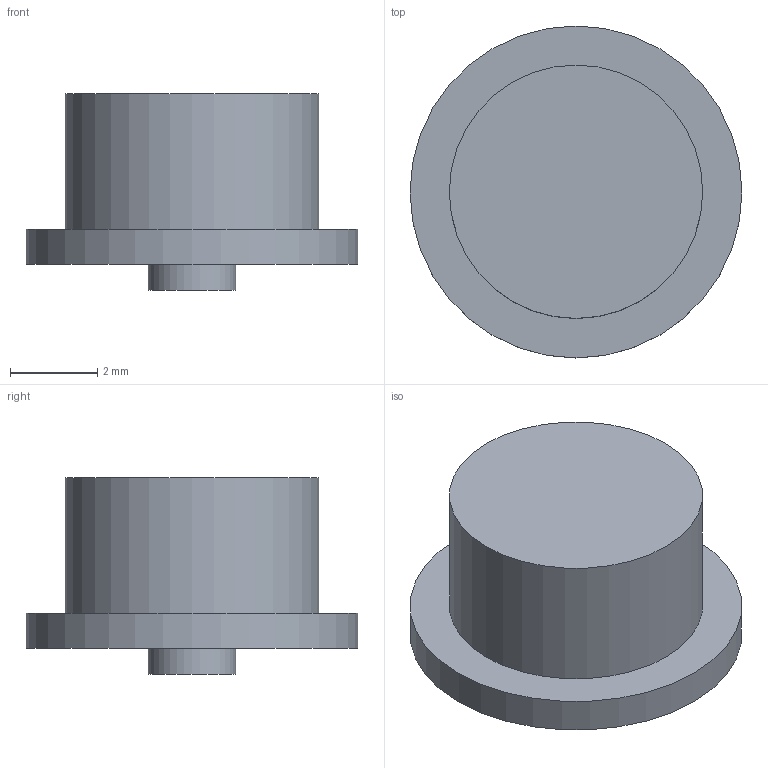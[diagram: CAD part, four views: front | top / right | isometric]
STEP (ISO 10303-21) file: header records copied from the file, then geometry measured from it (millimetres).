
FILE_DESCRIPTION(('FreeCAD Model'),'2;1');
FILE_NAME('Open CASCADE Shape Model','2026-10-19T21:34:23',('FreeCAD'),( 'FreeCAD'),'Open CASCADE STEP processor 7.8','FreeCAD','Unknown');
FILE_SCHEMA(('AUTOMOTIVE_DESIGN { 1 0 10303 214 1 1 1 1 }'));
Length unit declared in the file: millimetre
Products named in the file (1): Open CASCADE STEP translator 7.8 26
Bounding box: 7.6 x 7.6 x 4.5 mm (x, y, z)
Volume: 120.1 mm3; surface area: 170.1 mm2
Topology: 1 solids, 1 shells, 7 faces, 9 edges, 6 vertices
Faces by surface type: plane 4, cylinder 3
Full cylindrical faces by diameter (mm): 2 x1, 5.8 x1, 7.6 x1
Entity records: 159 total; most frequent: DIRECTION 31, CARTESIAN_POINT 23, ORIENTED_EDGE 18, AXIS2_PLACEMENT_3D 14, FACE_BOUND 9, EDGE_LOOP 9, EDGE_CURVE 9, ADVANCED_FACE 7
